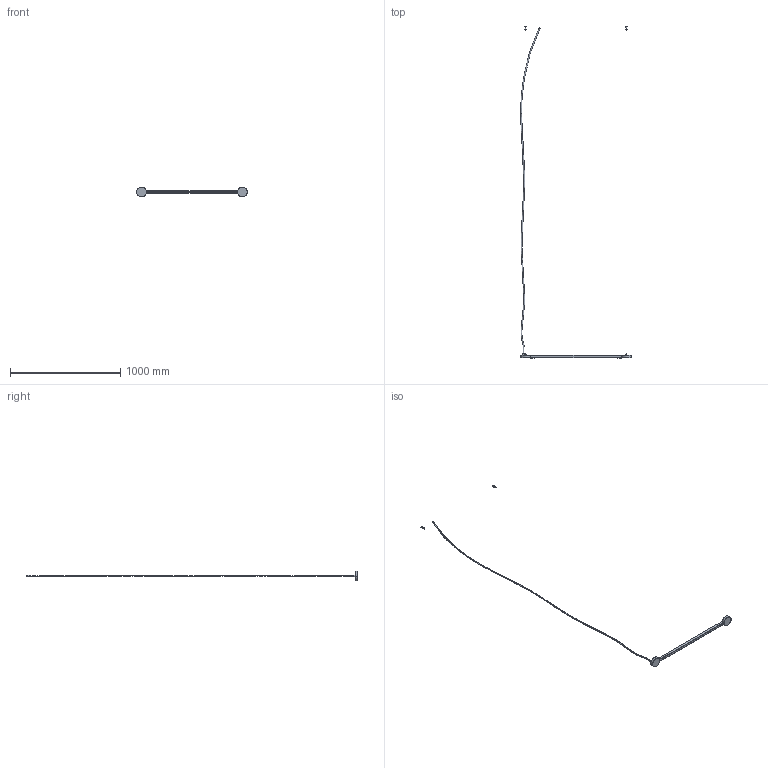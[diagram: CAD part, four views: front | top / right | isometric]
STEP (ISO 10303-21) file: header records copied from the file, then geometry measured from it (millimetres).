
FILE_DESCRIPTION (( 'STEP AP203' ), '1' );
FILE_NAME ('SPPOS0108XXXXXX-PER 3D.STEP', '2026-07-07T18:03:37', ( '' ), ( '' ), 'SwSTEP 2.0', 'SolidWorks 2026', '' );
FILE_SCHEMA (( 'CONFIG_CONTROL_DESIGN' ));
Length unit declared in the file: millimetre
Products named in the file (1): SPPOS0108XXXXXX-PER 3D
Bounding box: 1004.72 x 3012.21 x 89.5 mm (x, y, z)
Surface area: 205332.5 mm2 (no closed solid volume)
Topology: 0 solids, 39 shells, 90 faces, 1029 edges, 954 vertices
Faces by surface type: plane 38, cylinder 37, cone 11, bspline 4
Entity records: 11819 total; most frequent: CARTESIAN_POINT 4675, DIRECTION 1338, ORIENTED_EDGE 1128, EDGE_CURVE 1029, VERTEX_POINT 954, LINE 556, VECTOR 556, AXIS2_PLACEMENT_3D 391
